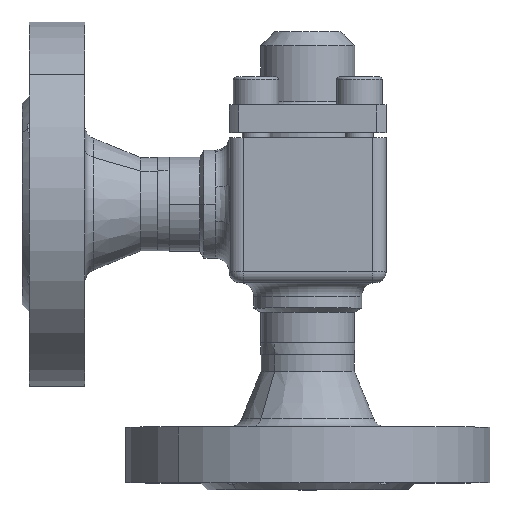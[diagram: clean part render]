
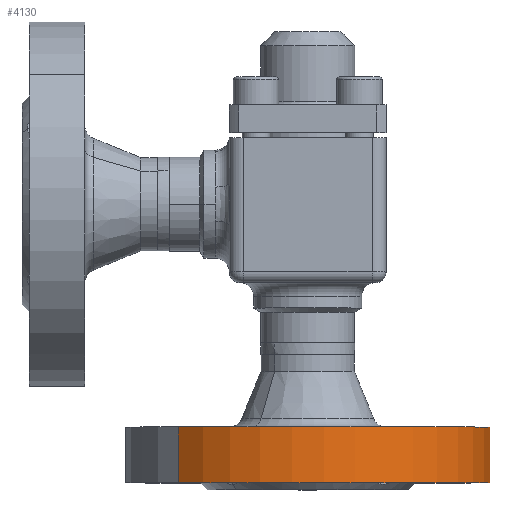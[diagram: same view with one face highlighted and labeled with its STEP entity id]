
A CAD part, top view. The second image highlights one B-rep face of the part: STEP entity #4130.
In plain terms, the highlighted cylindrical face has radius 52.5 mm (diameter 105 mm), a partial arc.
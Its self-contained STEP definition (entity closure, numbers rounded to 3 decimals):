
#39 = VERTEX_POINT ( 'NONE', #4959 ) ;
#106 = ORIENTED_EDGE ( 'NONE', *, *, #256, .F. ) ;
#256 = EDGE_CURVE ( 'NONE', #1119, #39, #5103, .T. ) ;
#1119 = VERTEX_POINT ( 'NONE', #6726 ) ;
#1327 = VERTEX_POINT ( 'NONE', #6818 ) ;
#1730 = EDGE_CURVE ( 'NONE', #1327, #9270, #6994, .T. ) ;
#2118 = FACE_OUTER_BOUND ( 'NONE', #4108, .T. ) ;
#2119 = CYLINDRICAL_SURFACE ( 'NONE', #2120, 52.5 ) ;
#2120 = AXIS2_PLACEMENT_3D ( 'NONE', #2123, #2124, #2125 ) ;
#2123 = CARTESIAN_POINT ( 'NONE',  ( 0., 75., 0. ) ) ;
#2124 = DIRECTION ( 'NONE',  ( 0., 1., 0. ) ) ;
#2125 = DIRECTION ( 'NONE',  ( -1., 0., 0. ) ) ;
#4108 = EDGE_LOOP ( 'NONE', ( #106, #9983, #6035, #4550 ) ) ;
#4130 = ADVANCED_FACE ( 'NONE', ( #2118 ), #2119, .T. ) ;
#4461 = EDGE_CURVE ( 'NONE', #39, #9270, #8714, .T. ) ;
#4550 = ORIENTED_EDGE ( 'NONE', *, *, #4461, .F. ) ;
#4959 = CARTESIAN_POINT ( 'NONE',  ( 52.5, 18., 0. ) ) ;
#5103 = LINE ( 'NONE', #5104, #5105 ) ;
#5104 = CARTESIAN_POINT ( 'NONE',  ( 52.5, 75., 0. ) ) ;
#5105 = VECTOR ( 'NONE', #5106, 1000. ) ;
#5106 = DIRECTION ( 'NONE',  ( 0., 1., 0. ) ) ;
#6035 = ORIENTED_EDGE ( 'NONE', *, *, #1730, .T. ) ;
#6726 = CARTESIAN_POINT ( 'NONE',  ( 52.5, 2., 0. ) ) ;
#6818 = CARTESIAN_POINT ( 'NONE',  ( -52.5, 2., 0. ) ) ;
#6994 = LINE ( 'NONE', #6995, #6996 ) ;
#6995 = CARTESIAN_POINT ( 'NONE',  ( -52.5, 75., 0. ) ) ;
#6996 = VECTOR ( 'NONE', #6997, 1000. ) ;
#6997 = DIRECTION ( 'NONE',  ( 0., 1., 0. ) ) ;
#8714 = CIRCLE ( 'NONE', #8715, 52.5 ) ;
#8715 = AXIS2_PLACEMENT_3D ( 'NONE', #8716, #8717, #8718 ) ;
#8716 = CARTESIAN_POINT ( 'NONE',  ( 0., 18., 0. ) ) ;
#8717 = DIRECTION ( 'NONE',  ( 0., 1., 0. ) ) ;
#8718 = DIRECTION ( 'NONE',  ( -1., 0., 0. ) ) ;
#8774 = CARTESIAN_POINT ( 'NONE',  ( -52.5, 18., 0. ) ) ;
#9270 = VERTEX_POINT ( 'NONE', #8774 ) ;
#9624 = EDGE_CURVE ( 'NONE', #1119, #1327, #9706, .T. ) ;
#9706 = CIRCLE ( 'NONE', #9707, 52.5 ) ;
#9707 = AXIS2_PLACEMENT_3D ( 'NONE', #9708, #9709, #9710 ) ;
#9708 = CARTESIAN_POINT ( 'NONE',  ( 0., 2., 0. ) ) ;
#9709 = DIRECTION ( 'NONE',  ( 0., 1., 0. ) ) ;
#9710 = DIRECTION ( 'NONE',  ( -1., 0., 0. ) ) ;
#9983 = ORIENTED_EDGE ( 'NONE', *, *, #9624, .T. ) ;
